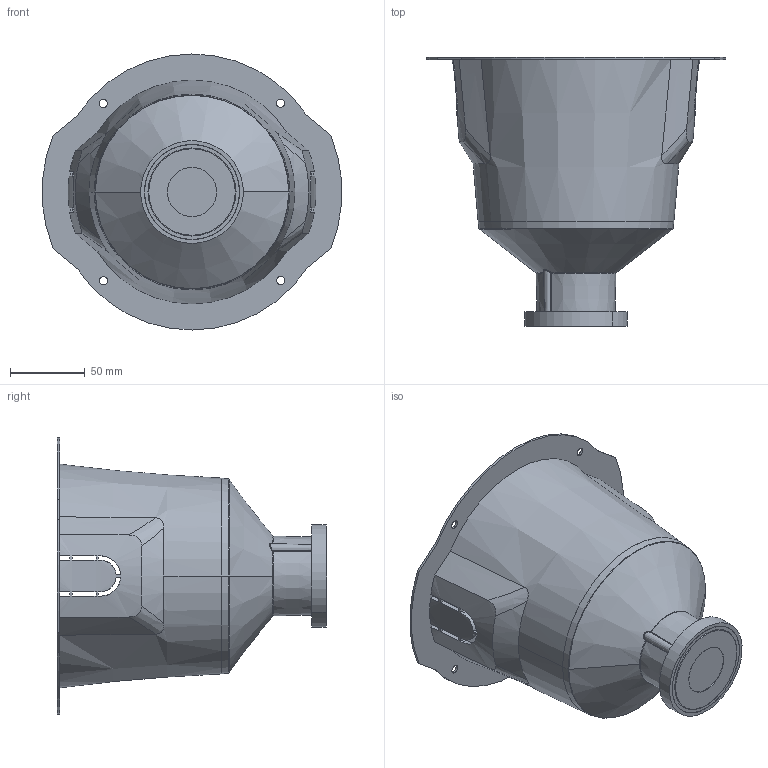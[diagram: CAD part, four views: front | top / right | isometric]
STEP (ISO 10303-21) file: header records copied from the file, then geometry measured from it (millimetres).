
FILE_DESCRIPTION((''),'2;1');
FILE_NAME('RB2CCR0125_ASM','2025-05-06T',('C028'),(''),'CREO PARAMETRIC BY PTC INC, 2014190','CREO PARAMETRIC BY PTC INC, 2014190','');
FILE_SCHEMA(('CONFIG_CONTROL_DESIGN'));
Length unit declared in the file: millimetre
Products named in the file (25): 2CCR-DT_38_5; D1S-H_18_37_1; 2CCR-BL_36_1; 2CCR-YMTGDQ_39_1; 2CCR-KH_37_1; 2CCR-MZH_40_3; DZ_3_37_1; 2CCR-MZH_ASM_37_ASM_2_ASM; SS1_1_37_1; SS2_1_37_1; SS3_1_37_1; M12-CU_ASM_1_ASM_37_ASM_1_ASM; M12_ASM_37_ASM_1_ASM; 2CCR-FSD_37_1; M3-BT_37_1; BAN_3; HOLDER-3522-A0-1313_1_1; COB-10_1_1_1; B71_1; 05024A-59535_1_ASM_1_ASM_1_ASM; 2CCR_ASM_36_ASM_5_ASM; 10_-2CC-_; 3_21; 2EE_A-5_5; RB2CCR0125_ASM
Assembly tree (26 placements, depth 5):
  RB2CCR0125_ASM
    2CCR_ASM_36_ASM_5_ASM
      2CCR-DT_38_5
      D1S-H_18_37_1
      2CCR-BL_36_1
      2CCR-YMTGDQ_39_1
      2CCR-KH_37_1  x2
      2CCR-MZH_ASM_37_ASM_2_ASM
        2CCR-MZH_40_3
        DZ_3_37_1
      M12_ASM_37_ASM_1_ASM
        M12-CU_ASM_1_ASM_37_ASM_1_ASM
          SS1_1_37_1
          SS2_1_37_1
          SS3_1_37_1
      2CCR-FSD_37_1
      M3-BT_37_1  x2
      BAN_3
      05024A-59535_1_ASM_1_ASM_1_ASM
        HOLDER-3522-A0-1313_1_1
        COB-10_1_1_1
        B71_1
    10_-2CC-_
    3_21
    2EE_A-5_5
Bounding box: 200.47 x 180.6 x 185 mm (x, y, z)
Volume: 350416.4 mm3; surface area: 283665.1 mm2
Topology: 21 solids, 21 shells, 2144 faces, 6183 edges, 4127 vertices
Faces by surface type: plane 950, cylinder 573, bspline 192, cone 188, extrusion 172, torus 49, sphere 20
Entity records: 93853 total; most frequent: CARTESIAN_POINT 42212, ORIENTED_EDGE 11776, DIRECTION 9106, EDGE_CURVE 5888, VERTEX_POINT 3950, AXIS2_PLACEMENT_3D 3150, VECTOR 2806, LINE 2634
